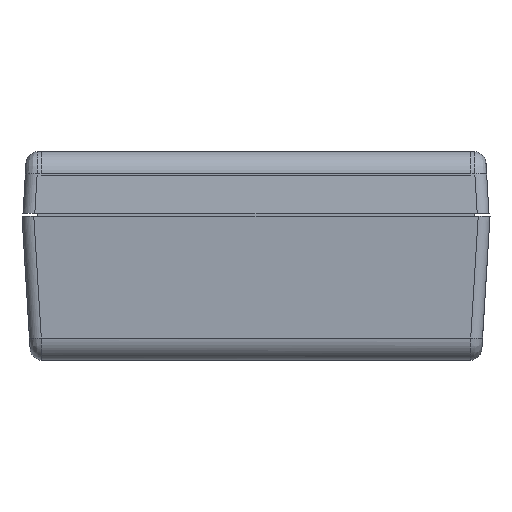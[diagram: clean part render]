
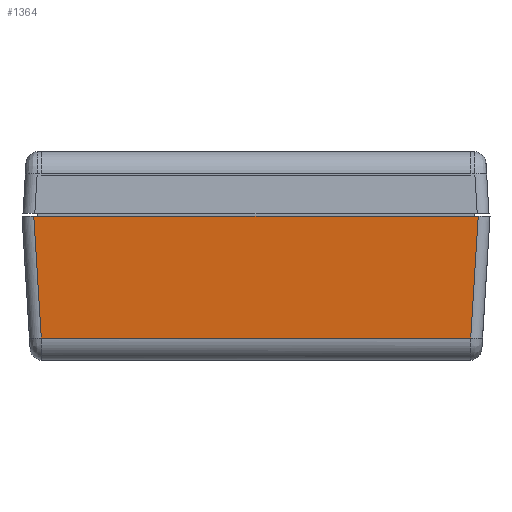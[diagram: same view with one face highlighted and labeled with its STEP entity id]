
A CAD part, front view. The second image highlights one B-rep face of the part: STEP entity #1364.
In plain terms, the highlighted planar face has unit normal (0, -0.998, -0.061) as drawn and (0, -0.998, 0.061) by its records, which use the part's own axes.
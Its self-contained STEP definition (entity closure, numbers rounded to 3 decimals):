
#40 = ORIENTED_EDGE ( 'NONE', *, *, #249, .T. ) ;
#239 = CARTESIAN_POINT ( 'NONE',  ( 0., -93.103, 15.483 ) ) ;
#249 = EDGE_CURVE ( 'NONE', #2550, #2004, #3169, .T. ) ;
#346 = EDGE_LOOP ( 'NONE', ( #6079, #40, #3276, #5350 ) ) ;
#548 = CARTESIAN_POINT ( 'NONE',  ( 28.203, -94.05, 0. ) ) ;
#612 = EDGE_CURVE ( 'NONE', #1472, #715, #4288, .T. ) ;
#715 = VERTEX_POINT ( 'NONE', #4402 ) ;
#749 = PLANE ( 'NONE',  #5637 ) ;
#762 = FACE_OUTER_BOUND ( 'NONE', #346, .T. ) ;
#1035 = DIRECTION ( 'NONE',  ( -0.061, 0.061, 0.996 ) ) ;
#1169 = CARTESIAN_POINT ( 'NONE',  ( -28.203, -94.05, 0. ) ) ;
#1194 = DIRECTION ( 'NONE',  ( -1., 0., 0. ) ) ;
#1216 = DIRECTION ( 'NONE',  ( 0., -0.998, 0.061 ) ) ;
#1285 = VECTOR ( 'NONE', #1035, 1000. ) ;
#1364 = ADVANCED_FACE ( 'NONE', ( #762 ), #749, .T. ) ;
#1472 = VERTEX_POINT ( 'NONE', #5680 ) ;
#1977 = CARTESIAN_POINT ( 'NONE',  ( -27.256, -93.103, 15.483 ) ) ;
#2004 = VERTEX_POINT ( 'NONE', #1169 ) ;
#2550 = VERTEX_POINT ( 'NONE', #1977 ) ;
#2571 = CARTESIAN_POINT ( 'NONE',  ( 0., -94.05, 0. ) ) ;
#2831 = EDGE_CURVE ( 'NONE', #715, #2550, #3883, .T. ) ;
#3113 = DIRECTION ( 'NONE',  ( -0.061, -0.061, -0.996 ) ) ;
#3169 = LINE ( 'NONE', #6000, #5471 ) ;
#3188 = EDGE_CURVE ( 'NONE', #1472, #2004, #4274, .T. ) ;
#3276 = ORIENTED_EDGE ( 'NONE', *, *, #3188, .F. ) ;
#3734 = VECTOR ( 'NONE', #1194, 1000. ) ;
#3883 = LINE ( 'NONE', #239, #3734 ) ;
#4087 = CARTESIAN_POINT ( 'NONE',  ( -28.541, -93.103, 15.483 ) ) ;
#4274 = LINE ( 'NONE', #2571, #5552 ) ;
#4288 = LINE ( 'NONE', #548, #1285 ) ;
#4402 = CARTESIAN_POINT ( 'NONE',  ( 27.256, -93.103, 15.483 ) ) ;
#4571 = DIRECTION ( 'NONE',  ( 0., -0.061, -0.998 ) ) ;
#5350 = ORIENTED_EDGE ( 'NONE', *, *, #612, .T. ) ;
#5471 = VECTOR ( 'NONE', #3113, 1000. ) ;
#5552 = VECTOR ( 'NONE', #5904, 1000. ) ;
#5637 = AXIS2_PLACEMENT_3D ( 'NONE', #4087, #1216, #4571 ) ;
#5680 = CARTESIAN_POINT ( 'NONE',  ( 28.203, -94.05, 0. ) ) ;
#5904 = DIRECTION ( 'NONE',  ( -1., 0., 0. ) ) ;
#6000 = CARTESIAN_POINT ( 'NONE',  ( -27.733, -93.581, 7.676 ) ) ;
#6079 = ORIENTED_EDGE ( 'NONE', *, *, #2831, .T. ) ;
